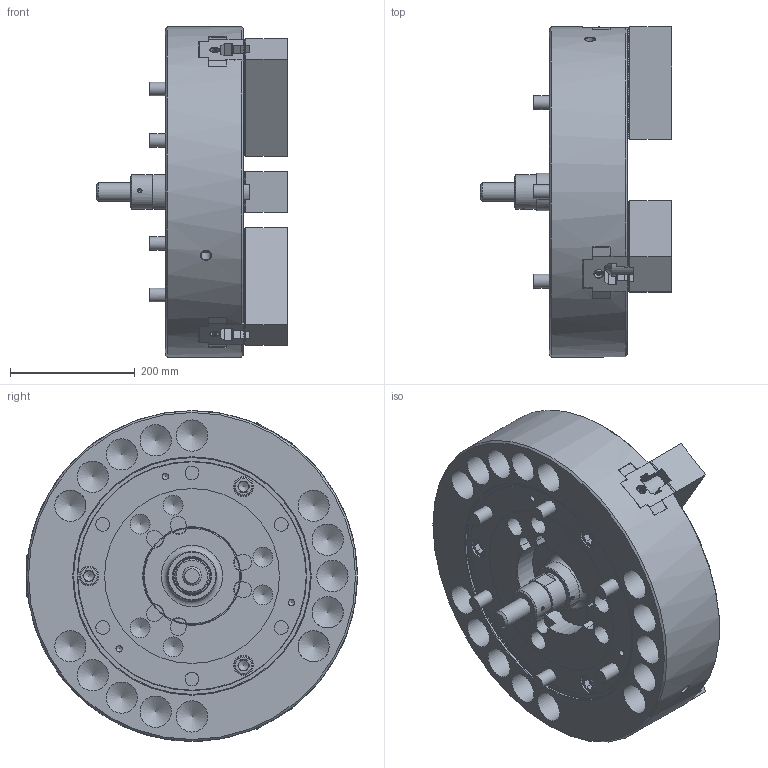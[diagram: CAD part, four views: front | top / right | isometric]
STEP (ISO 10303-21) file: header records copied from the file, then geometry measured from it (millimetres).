
FILE_DESCRIPTION (( 'STEP AP214' ), '1' );
FILE_NAME ('N-21_UC.STEP', '2020-01-27T01:17:05', ( '' ), ( '' ), 'SwSTEP 2.0', 'SolidWorks 2017', '' );
FILE_SCHEMA (( 'AUTOMOTIVE_DESIGN' ));
Length unit declared in the file: millimetre
Products named in the file (21): 俛傾僫僣僉 M20x6020x60; 61P4185380 T僫僢僩b_g; N-21_UC; P322625 ソフトジョー_W_‡_[; Part1^61P2540191 クミタテ_^_e; Part1^61P2540191 僋儈僞僥_^_e_棉太倌I佱UA; 俛傾僫僣僉 M20x6020x60_B迸路 M20X6020X60; P322625 ソフトジョー_W_‡_[_ﾃﾞﾌｫﾙﾄ_ATI≪UA; 61P4185380 T僫僢僩b_g_棉太倌佱UA
Assembly tree (16 placements, depth 2):
  俛傾僫僣僉 M20x6020x60
  俛傾僫僣僉 M20x6020x60
  61P4185380 T僫僢僩b_g
  N-21_UC
    P322625 ソフトジョー_W_‡_[_ﾃﾞﾌｫﾙﾄ_ATI≪UA  x3
    61P4185380 T僫僢僩b_g_棉太倌佱UA  x6
    俛傾僫僣僉 M20x6020x60_B迸路 M20X6020X60  x6
    Part1^61P2540191 僋儈僞僥_^_e_棉太倌I佱UA
  P322625 ソフトジョー_W_‡_[
Bounding box: 307 x 530 x 530 mm (x, y, z)
Volume: 25930005.4 mm3; surface area: 1510337.4 mm2
Topology: 16 solids, 31 shells, 4097 faces, 11685 edges, 7721 vertices
Faces by surface type: plane 3606, cylinder 293, cone 160, torus 35, sphere 3
Full cylindrical faces by diameter (mm): 6.8 x1, 8 x3, 9 x3, 10.2 x3, 11 x3, 14.5 x2, 15 x3, 16 x2, 17.5 x6, 20 x12, 21 x6, 22 x6, 30 x10, 32 x15, 33 x6, 36 x6, 50 x15, 55 x1, 60 x2, 60.5 x2, 78 x1, 156 x1, 280 x1, 380 x1, 381 x1, 530 x1
Entity records: 101527 total; most frequent: CARTESIAN_POINT 19958, ORIENTED_EDGE 17552, DIRECTION 15472, EDGE_CURVE 8776, VECTOR 7720, LINE 7720, VERTEX_POINT 5861, AXIS2_PLACEMENT_3D 3876
